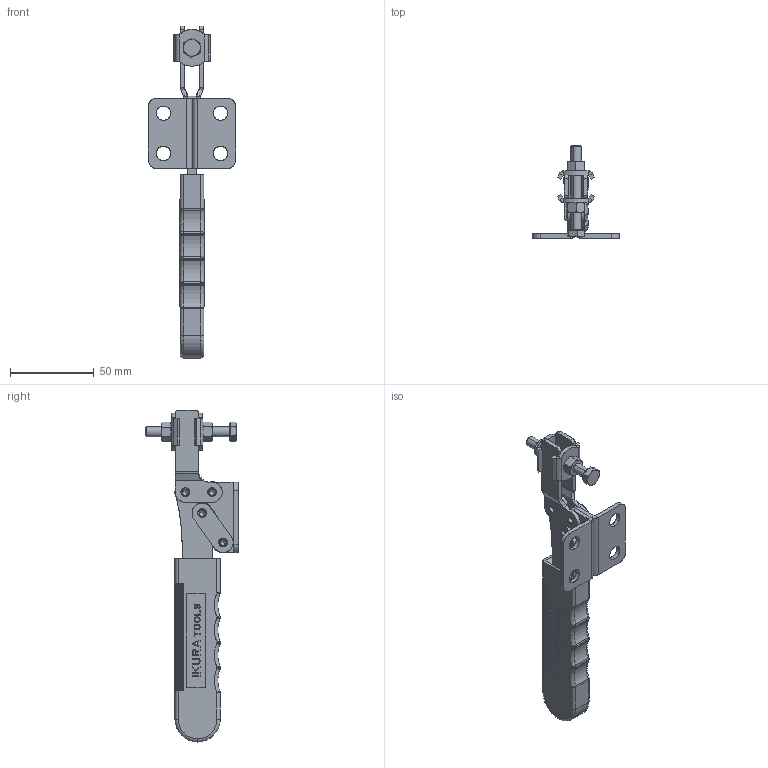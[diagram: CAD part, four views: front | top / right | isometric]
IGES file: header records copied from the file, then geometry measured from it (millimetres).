
Start section: SolidWorks IGES file using analytic representation for surfaces
Bounding box: 52 x 55.02 x 198 mm (x, y, z)
Surface area: 37560.4 mm2 (no closed solid volume)
Topology: 0 solids, 0 shells, 1506 faces, 16922 edges, 16894 vertices
Faces by surface type: bspline 1030, revolution 476
